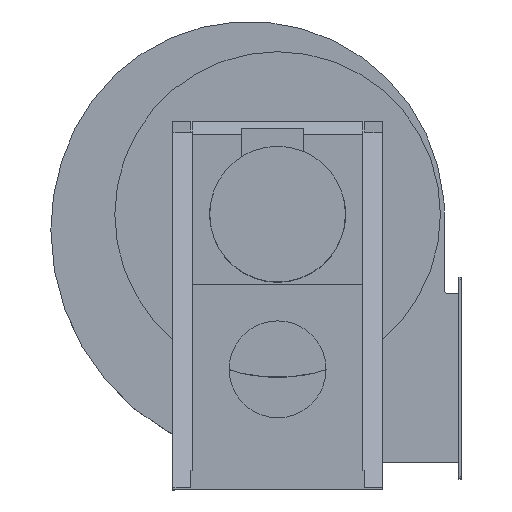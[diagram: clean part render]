
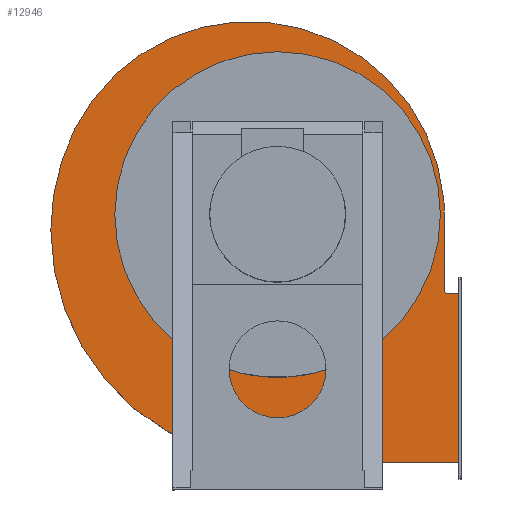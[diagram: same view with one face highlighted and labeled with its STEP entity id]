
A CAD part, top view. The second image highlights one B-rep face of the part: STEP entity #12946.
In plain terms, the highlighted planar face has unit normal (0, 0, 1).
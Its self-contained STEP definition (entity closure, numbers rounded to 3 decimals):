
#1257=CIRCLE('',#13453,580.);
#1258=CIRCLE('',#13455,503.619);
#1259=CIRCLE('',#13457,410.);
#1260=CIRCLE('',#13460,10.);
#1261=CIRCLE('',#13465,600.);
#1265=CIRCLE('',#13484,420.);
#1404=FACE_BOUND('',#2816,.T.);
#2015=FACE_OUTER_BOUND('',#2815,.T.);
#2815=EDGE_LOOP('',(#11361,#11362,#11363,#11364,#11365,#11366,#11367,#11368,
#11369));
#2816=EDGE_LOOP('',(#11370));
#3717=LINE('',#27630,#4745);
#3719=LINE('',#27637,#4747);
#3721=LINE('',#27641,#4749);
#3725=LINE('',#27647,#4753);
#4745=VECTOR('',#15208,10.);
#4747=VECTOR('',#15216,10.);
#4749=VECTOR('',#15220,10.);
#4753=VECTOR('',#15226,10.);
#6079=VERTEX_POINT('',#27614);
#6080=VERTEX_POINT('',#27615);
#6081=VERTEX_POINT('',#27620);
#6082=VERTEX_POINT('',#27624);
#6083=VERTEX_POINT('',#27628);
#6084=VERTEX_POINT('',#27632);
#6085=VERTEX_POINT('',#27636);
#6086=VERTEX_POINT('',#27640);
#6087=VERTEX_POINT('',#27645);
#6123=VERTEX_POINT('',#27747);
#7835=EDGE_CURVE('',#6079,#6080,#1257,.T.);
#7838=EDGE_CURVE('',#6081,#6079,#1258,.T.);
#7840=EDGE_CURVE('',#6082,#6081,#1259,.T.);
#7843=EDGE_CURVE('',#6083,#6082,#3717,.T.);
#7844=EDGE_CURVE('',#6083,#6084,#1260,.T.);
#7846=EDGE_CURVE('',#6085,#6084,#3719,.T.);
#7848=EDGE_CURVE('',#6086,#6085,#3721,.T.);
#7852=EDGE_CURVE('',#6087,#6086,#3725,.T.);
#7853=EDGE_CURVE('',#6080,#6087,#1261,.T.);
#7901=EDGE_CURVE('',#6123,#6123,#1265,.T.);
#11361=ORIENTED_EDGE('',*,*,#7853,.T.);
#11362=ORIENTED_EDGE('',*,*,#7852,.T.);
#11363=ORIENTED_EDGE('',*,*,#7848,.T.);
#11364=ORIENTED_EDGE('',*,*,#7846,.T.);
#11365=ORIENTED_EDGE('',*,*,#7844,.F.);
#11366=ORIENTED_EDGE('',*,*,#7843,.T.);
#11367=ORIENTED_EDGE('',*,*,#7840,.T.);
#11368=ORIENTED_EDGE('',*,*,#7838,.T.);
#11369=ORIENTED_EDGE('',*,*,#7835,.T.);
#11370=ORIENTED_EDGE('',*,*,#7901,.T.);
#12014=PLANE('',#13483);
#12946=ADVANCED_FACE('',(#2015,#1404),#12014,.F.);
#13453=AXIS2_PLACEMENT_3D('',#27616,#15191,#15192);
#13455=AXIS2_PLACEMENT_3D('',#27621,#15197,#15198);
#13457=AXIS2_PLACEMENT_3D('',#27625,#15202,#15203);
#13460=AXIS2_PLACEMENT_3D('',#27633,#15211,#15212);
#13465=AXIS2_PLACEMENT_3D('',#27649,#15229,#15230);
#13483=AXIS2_PLACEMENT_3D('',#27746,#15309,#15310);
#13484=AXIS2_PLACEMENT_3D('',#27748,#15311,#15312);
#15191=DIRECTION('center_axis',(0.,0.,
1.));
#15192=DIRECTION('ref_axis',(1.,0.,0.));
#15197=DIRECTION('center_axis',(0.,0.,
1.));
#15198=DIRECTION('ref_axis',(0.893,-0.45,0.));
#15202=DIRECTION('center_axis',(0.,0.,
1.));
#15203=DIRECTION('ref_axis',(-0.996,-0.094,0.));
#15208=DIRECTION('',(0.,1.,0.));
#15211=DIRECTION('center_axis',(0.,0.,
1.));
#15212=DIRECTION('ref_axis',(-0.707,-0.707,0.));
#15216=DIRECTION('',(-1.,0.,0.));
#15220=DIRECTION('',(0.,1.,0.));
#15226=DIRECTION('',(1.,0.,0.));
#15229=DIRECTION('center_axis',(0.,0.,
1.));
#15230=DIRECTION('ref_axis',(0.,1.,0.));
#15309=DIRECTION('center_axis',(0.,0.,
-1.));
#15310=DIRECTION('ref_axis',(0.,1.,0.));
#15311=DIRECTION('center_axis',(0.,0.,-1.));
#15312=DIRECTION('ref_axis',(-1.,0.,0.));
#27614=CARTESIAN_POINT('',(-522.919,221.074,0.));
#27615=CARTESIAN_POINT('',(-585.,-40.,0.));
#27616=CARTESIAN_POINT('Origin',(-5.,-40.,0.));
#27620=CARTESIAN_POINT('',(428.192,41.622,0.));
#27621=CARTESIAN_POINT('Origin',(-73.206,-5.619,0.));
#27624=CARTESIAN_POINT('',(430.,3.163,0.));
#27625=CARTESIAN_POINT('Origin',(20.,3.163,0.));
#27628=CARTESIAN_POINT('',(430.,-194.,0.));
#27630=CARTESIAN_POINT('',(430.,-204.,0.));
#27632=CARTESIAN_POINT('',(440.,-204.,0.));
#27633=CARTESIAN_POINT('Origin',(440.,-194.,0.));
#27636=CARTESIAN_POINT('',(467.5,-204.,0.));
#27637=CARTESIAN_POINT('',(467.5,-204.,0.));
#27640=CARTESIAN_POINT('',(467.5,-640.,0.));
#27641=CARTESIAN_POINT('',(467.5,-249.701,0.));
#27645=CARTESIAN_POINT('',(15.,-640.,0.));
#27647=CARTESIAN_POINT('',(-585.,-640.,0.));
#27649=CARTESIAN_POINT('Origin',(15.,-40.,0.));
#27746=CARTESIAN_POINT('Origin',(-63.908,-77.402,0.));
#27747=CARTESIAN_POINT('',(420.,0.,0.));
#27748=CARTESIAN_POINT('Origin',(0.,0.,0.));
